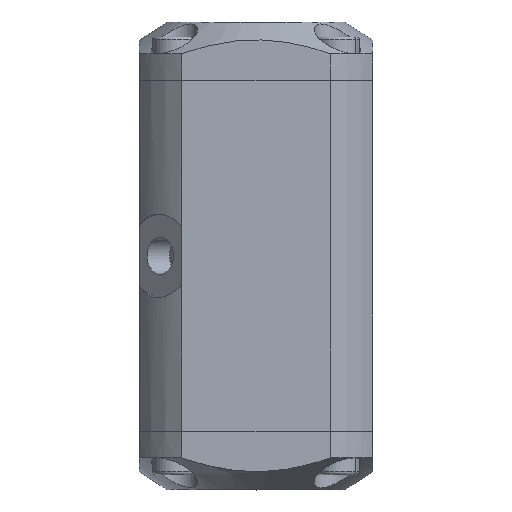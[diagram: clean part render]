
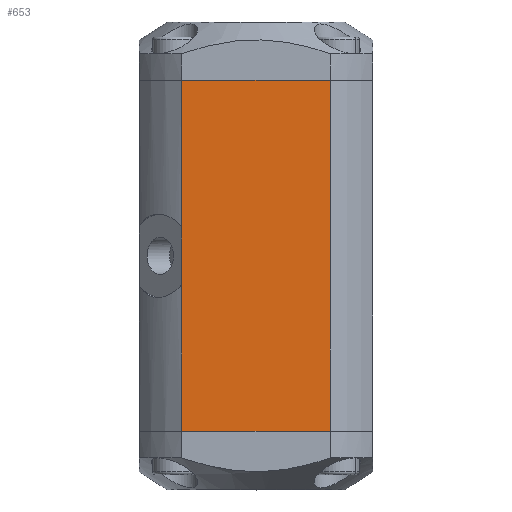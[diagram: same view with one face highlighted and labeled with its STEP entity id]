
A CAD part, top view. The second image highlights one B-rep face of the part: STEP entity #653.
In plain terms, the highlighted planar face has unit normal (0, 0, 1).
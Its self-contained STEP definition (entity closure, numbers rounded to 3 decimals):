
#32=ELLIPSE('',#4155,17.678,12.5);
#33=ELLIPSE('',#4156,17.678,12.5);
#265=PLANE('',#4157);
#653=ADVANCED_FACE('',(#930),#265,.T.);
#930=FACE_OUTER_BOUND('',#1206,.T.);
#1206=EDGE_LOOP('',(#2425,#2426,#2427,#2428,#2429,#2430,#2431,#2432));
#1476=LINE('',#6406,#1712);
#1479=LINE('',#6430,#1715);
#1484=LINE('',#6445,#1720);
#1485=LINE('',#6449,#1721);
#1486=LINE('',#6451,#1722);
#1487=LINE('',#6453,#1723);
#1712=VECTOR('',#5077,1.);
#1715=VECTOR('',#5084,1.);
#1720=VECTOR('',#5099,1.);
#1721=VECTOR('',#5102,1.);
#1722=VECTOR('',#5103,1.);
#1723=VECTOR('',#5104,1.);
#2425=ORIENTED_EDGE('',*,*,#3413,.T.);
#2426=ORIENTED_EDGE('',*,*,#3414,.T.);
#2427=ORIENTED_EDGE('',*,*,#3399,.F.);
#2428=ORIENTED_EDGE('',*,*,#3415,.T.);
#2429=ORIENTED_EDGE('',*,*,#3416,.F.);
#2430=ORIENTED_EDGE('',*,*,#3417,.F.);
#2431=ORIENTED_EDGE('',*,*,#3405,.F.);
#2432=ORIENTED_EDGE('',*,*,#3418,.T.);
#2965=VERTEX_POINT('',#6407);
#2966=VERTEX_POINT('',#6408);
#2971=VERTEX_POINT('',#6429);
#2972=VERTEX_POINT('',#6431);
#2977=VERTEX_POINT('',#6446);
#2978=VERTEX_POINT('',#6447);
#2979=VERTEX_POINT('',#6450);
#2980=VERTEX_POINT('',#6452);
#3399=EDGE_CURVE('',#2965,#2966,#1476,.T.);
#3405=EDGE_CURVE('',#2971,#2972,#1479,.T.);
#3413=EDGE_CURVE('',#2977,#2978,#1484,.T.);
#3414=EDGE_CURVE('',#2978,#2966,#32,.T.);
#3415=EDGE_CURVE('',#2965,#2979,#1485,.T.);
#3416=EDGE_CURVE('',#2980,#2979,#1486,.T.);
#3417=EDGE_CURVE('',#2972,#2980,#1487,.T.);
#3418=EDGE_CURVE('',#2971,#2977,#33,.T.);
#4155=AXIS2_PLACEMENT_3D('',#6448,#5100,#5101);
#4156=AXIS2_PLACEMENT_3D('',#6454,#5105,#5106);
#4157=AXIS2_PLACEMENT_3D('',#6455,#5107,#5108);
#5077=DIRECTION('',(0.,1.,0.));
#5084=DIRECTION('',(0.,1.,0.));
#5099=DIRECTION('',(0.,-1.,0.));
#5100=DIRECTION('',(0.,0.,-1.));
#5101=DIRECTION('',(1.,0.,0.));
#5102=DIRECTION('',(1.,0.,0.));
#5103=DIRECTION('',(0.,-1.,0.));
#5104=DIRECTION('',(1.,0.,0.));
#5105=DIRECTION('',(0.,0.,-1.));
#5106=DIRECTION('',(1.,0.,0.));
#5107=DIRECTION('',(0.,0.,1.));
#5108=DIRECTION('',(1.,0.,0.));
#6406=CARTESIAN_POINT('',(-22.299,0.,35.));
#6407=CARTESIAN_POINT('',(-22.299,-52.5,35.));
#6408=CARTESIAN_POINT('',(-22.299,-8.694,35.));
#6429=CARTESIAN_POINT('',(-22.299,8.694,35.));
#6430=CARTESIAN_POINT('',(-22.299,0.,35.));
#6431=CARTESIAN_POINT('',(-22.299,52.5,35.));
#6445=CARTESIAN_POINT('',(-22.276,0.,35.));
#6446=CARTESIAN_POINT('',(-22.276,8.677,35.));
#6447=CARTESIAN_POINT('',(-22.276,-8.677,35.));
#6448=CARTESIAN_POINT('',(-35.,0.,35.));
#6449=CARTESIAN_POINT('',(0.,-52.5,35.));
#6450=CARTESIAN_POINT('',(22.299,-52.5,35.));
#6451=CARTESIAN_POINT('',(22.299,0.,35.));
#6452=CARTESIAN_POINT('',(22.299,52.5,35.));
#6453=CARTESIAN_POINT('',(0.,52.5,35.));
#6454=CARTESIAN_POINT('',(-35.,0.,35.));
#6455=CARTESIAN_POINT('',(0.,0.,35.));
